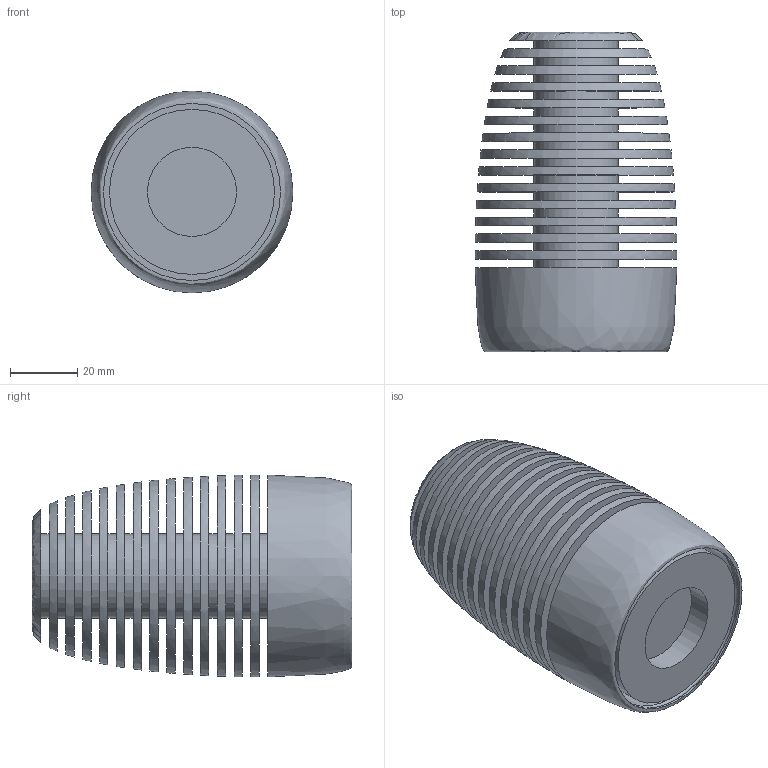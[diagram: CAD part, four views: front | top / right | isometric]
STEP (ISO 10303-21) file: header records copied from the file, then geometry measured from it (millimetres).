
FILE_DESCRIPTION(/* description */ (''),/* implementation_level */ '2;1');
FILE_NAME(/* name */ 'C:/Users/elena/Desktop/Vespa pendant.step',/* time_stamp */ '2020-06-24T13:27:23+02:00',/* author */ (''),/* organization */ (''),/* preprocessor_version */ 'ST-DEVELOPER v18.1',/* originating_system */ 'Autodesk Translation Framework v9.3.0.1241',/* authorisation */ '');
FILE_SCHEMA (('AUTOMOTIVE_DESIGN { 1 0 10303 214 3 1 1 }'));
Length unit declared in the file: centimetre
Products named in the file (1): (Unsaved)
Bounding box: 60 x 95 x 60 mm (x, y, z)
Volume: 142305.1 mm3; surface area: 78949.4 mm2
Topology: 2 solids, 2 shells, 68 faces, 162 edges, 98 vertices
Faces by surface type: plane 33, cylinder 19, bspline 15, torus 1
Full cylindrical faces by diameter (mm): 5 x1, 25 x14, 26.5 x1, 49.05 x1, 52.6 x2
Entity records: 2495 total; most frequent: CARTESIAN_POINT 843, DIRECTION 379, ORIENTED_EDGE 326, AXIS2_PLACEMENT_3D 165, EDGE_CURVE 163, VERTEX_POINT 101, CIRCLE 99, EDGE_LOOP 70
